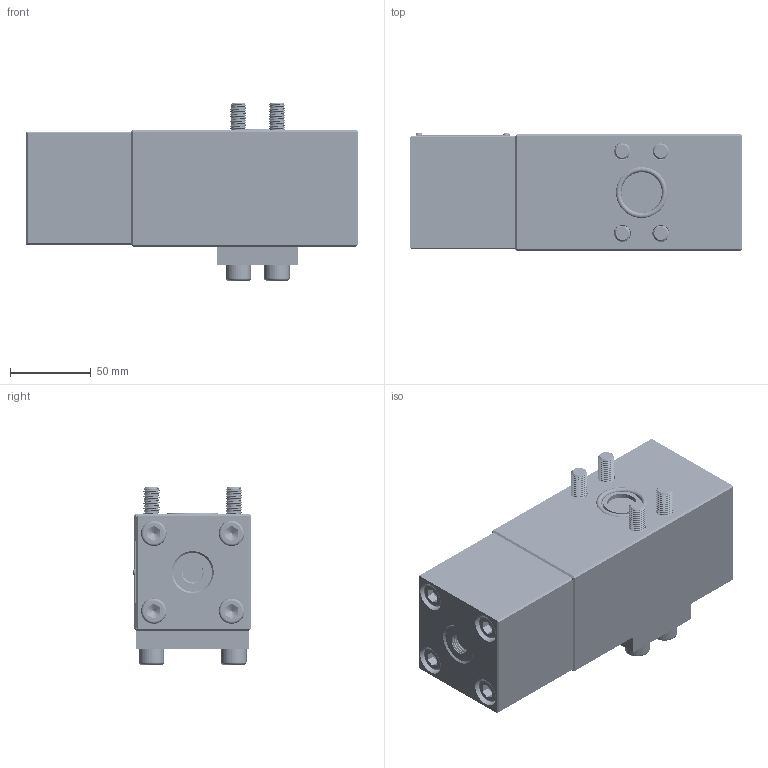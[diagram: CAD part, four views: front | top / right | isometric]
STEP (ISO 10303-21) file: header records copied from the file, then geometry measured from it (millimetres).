
FILE_DESCRIPTION(/* description */ (''),/* implementation_level */ '2;1');
FILE_NAME(/* name */ 'FD12(16)FA平衡阀.prt.stp',/* time_stamp */ '2022-03-30T20:01:37+08:00',/* author */ (''),/* organization */ (''),/* preprocessor_version */ 'ST-DEVELOPER v16.7',/* originating_system */ 'SIEMENS PLM Software NX 12.0',/* authorisation */ '');
FILE_SCHEMA (('AUTOMOTIVE_DESIGN { 1 0 10303 214 3 1 1 1 }'));
Products named in the file (1): FD12(16)FA平衡阀
Bounding box: 205 x 72.8 x 109.64 mm (x, y, z)
Volume: 1042145.5 mm3; surface area: 159492.3 mm2
Topology: 16 solids, 16 shells, 748 faces, 1932 edges, 1238 vertices
Faces by surface type: cylinder 458, plane 214, bspline 38, cone 28, torus 10
Full cylindrical faces by diameter (mm): 1.8 x2, 1.9 x2, 2 x2, 8.5 x80, 10 x296, 10.5 x4, 11 x8, 12.5 x1, 15.73 x8, 18 x7, 23 x2, 24 x1, 31.5 x2, 42 x1, 46 x1, 54 x1
Entity records: 72393 total; most frequent: CARTESIAN_POINT 64703, DIRECTION 1382, ORIENTED_EDGE 1306, EDGE_CURVE 653, AXIS2_PLACEMENT_3D 540, EDGE_LOOP 522, VERTEX_POINT 457, ADVANCED_FACE 372
